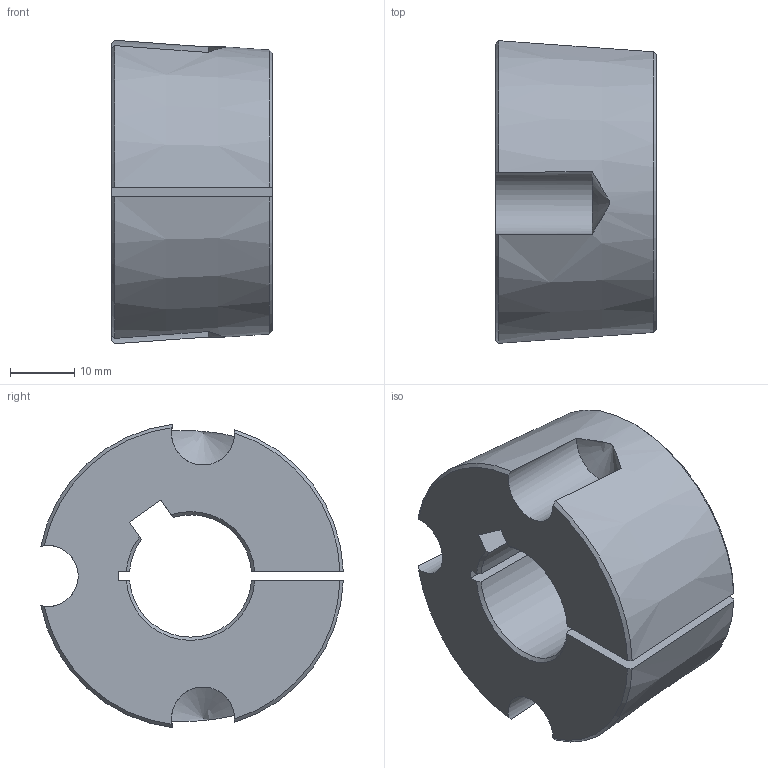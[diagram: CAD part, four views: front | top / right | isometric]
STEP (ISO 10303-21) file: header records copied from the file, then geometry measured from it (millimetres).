
FILE_DESCRIPTION(/* description */ (''),/* implementation_level */ '2;1');
FILE_NAME(/* name */ 'C:\Users\stagistaCAD\Desktop\29121019.stp',/* time_stamp */ '2018-06-27T15:25:48+02:00',/* author */ ('stagistacad'),/* organization */ (''),/* preprocessor_version */ 'ST-DEVELOPER v15.6',/* originating_system */ 'Autodesk Inventor 2015',/* authorisation */ '');
FILE_SCHEMA (('AUTOMOTIVE_DESIGN { 1 0 10303 214 3 1 1 }'));
Length unit declared in the file: millimetre
Products named in the file (1): 29121019
Bounding box: 25 x 47.01 x 47.16 mm (x, y, z)
Volume: 30588.5 mm3; surface area: 8715.4 mm2
Topology: 1 solids, 1 shells, 34 faces, 100 edges, 66 vertices
Faces by surface type: cone 16, plane 10, cylinder 8
Entity records: 1199 total; most frequent: CARTESIAN_POINT 330, ORIENTED_EDGE 192, DIRECTION 170, EDGE_CURVE 96, AXIS2_PLACEMENT_3D 69, VERTEX_POINT 64, FACE_OUTER_BOUND 34, EDGE_LOOP 34
